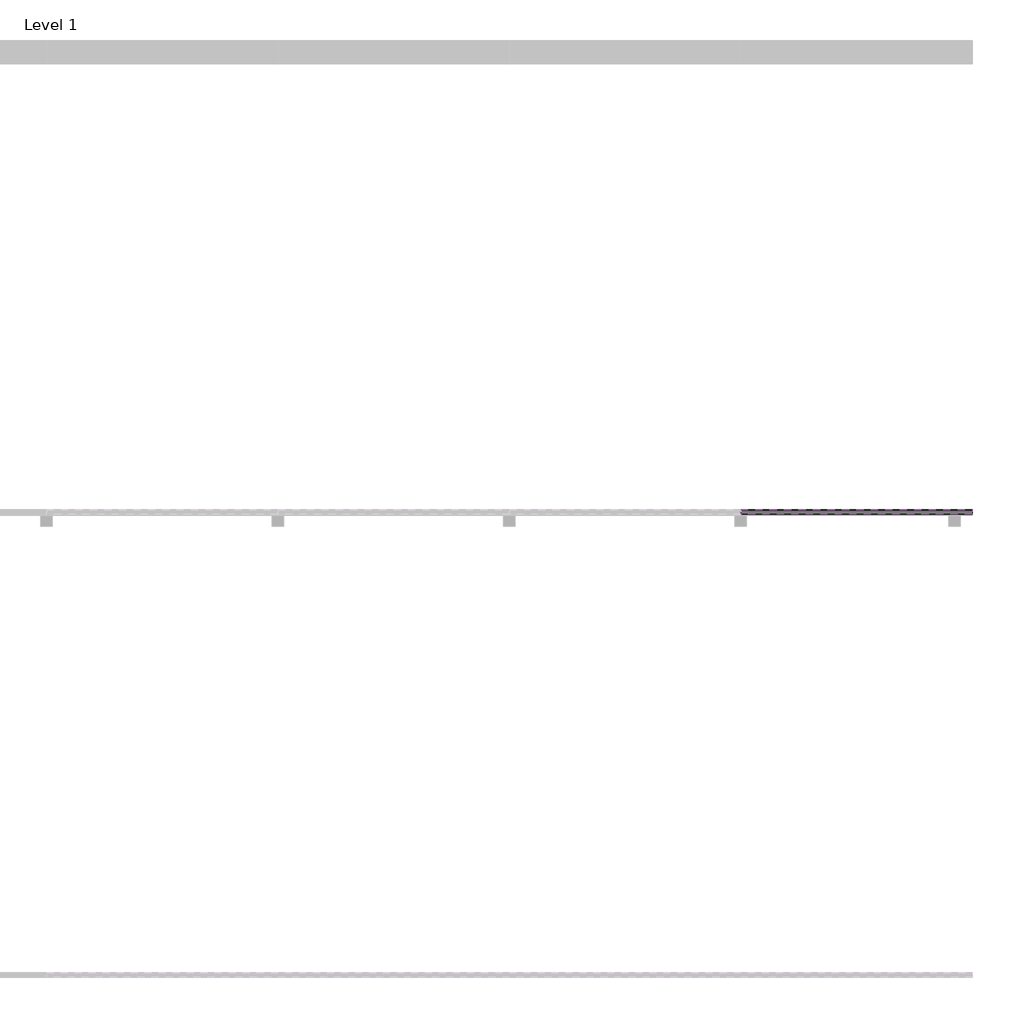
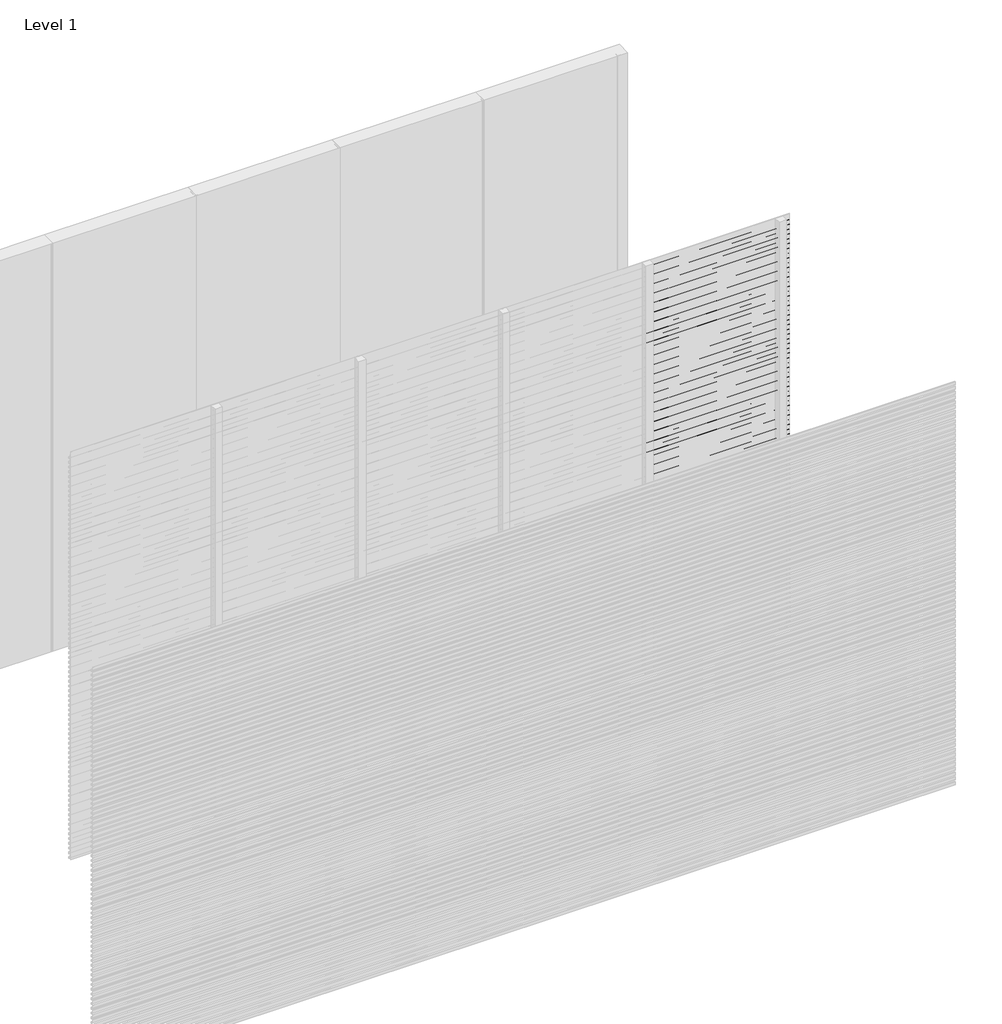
# One storey, part 13 of 25: 98 proxies.
"""IFC4 building model written with IfcOpenShell, lengths in millimetres."""

from ifc_helpers import new_model, si_unit, frame, origin, place, context, project, spatial, polyline, outline, extrude, element, save

model = new_model("IFC4")

# Units and contexts
model_context = context("Model", 3, world=origin())
ifc_project = project(units=[si_unit("LENGTHUNIT", "METRE", prefix="MILLI")], contexts=[model_context])

# Site, building, storey
site = spatial("IfcSite", under=ifc_project)
building = spatial("IfcBuilding", under=site)
storey = spatial("IfcBuildingStorey", under=building, Name="Level 1", Elevation=0.0)

# Proxies
placement = place(None, origin())
element("IfcBuildingElementProxy", 1, Name="Wall Sweeps", at=placement, inside=storey, context=model_context, shape_type="SweptSolid", body=[
    extrude(outline(polyline([(-11995.0, 665.0), (-11995.0, 653.942893), (-11976.0, 638.0), (-11976.0, 625.0), (-11997.0, 642.6210923), (-11997.0, 665.0), (-11995.0, 665.0)])), frame((4000.0, 0.0, 0.0), z_axis=(1.0, 0.0, 0.0), x_axis=(0.0, 1.0, 0.0)), (0.0, 0.0, 1.0), 1000.0),
])
element("IfcBuildingElementProxy", 2, Name="Wall Sweeps", at=placement, inside=storey, context=model_context, shape_type="SweptSolid", body=[
    extrude(outline(polyline([(-11995.0, 630.0), (-11995.0, 618.942893), (-11976.0, 603.0), (-11976.0, 590.0), (-11997.0, 607.6210923), (-11997.0, 630.0), (-11995.0, 630.0)])), frame((4000.0, 0.0, 0.0), z_axis=(1.0, 0.0, 0.0), x_axis=(0.0, 1.0, 0.0)), (0.0, 0.0, 1.0), 1000.0),
])
element("IfcBuildingElementProxy", 3, Name="Wall Sweeps", at=placement, inside=storey, context=model_context, shape_type="SweptSolid", body=[
    extrude(outline(polyline([(-11995.0, 595.0), (-11995.0, 583.942893), (-11976.0, 568.0), (-11976.0, 555.0), (-11997.0, 572.6210923), (-11997.0, 595.0), (-11995.0, 595.0)])), frame((4000.0, 0.0, 0.0), z_axis=(1.0, 0.0, 0.0), x_axis=(0.0, 1.0, 0.0)), (0.0, 0.0, 1.0), 1000.0),
])
element("IfcBuildingElementProxy", 4, Name="Wall Sweeps", at=placement, inside=storey, context=model_context, shape_type="SweptSolid", body=[
    extrude(outline(polyline([(-11995.0, 560.0), (-11995.0, 548.942893), (-11976.0, 533.0), (-11976.0, 520.0), (-11997.0, 537.6210923), (-11997.0, 560.0), (-11995.0, 560.0)])), frame((4000.0, 0.0, 0.0), z_axis=(1.0, 0.0, 0.0), x_axis=(0.0, 1.0, 0.0)), (0.0, 0.0, 1.0), 1000.0),
])
element("IfcBuildingElementProxy", 5, Name="Wall Sweeps", at=placement, inside=storey, context=model_context, shape_type="SweptSolid", body=[
    extrude(outline(polyline([(-11995.0, 525.0), (-11995.0, 513.942893), (-11976.0, 498.0), (-11976.0, 485.0), (-11997.0, 502.6210923), (-11997.0, 525.0), (-11995.0, 525.0)])), frame((4000.0, 0.0, 0.0), z_axis=(1.0, 0.0, 0.0), x_axis=(0.0, 1.0, 0.0)), (0.0, 0.0, 1.0), 1000.0),
])
element("IfcBuildingElementProxy", 6, Name="Wall Sweeps", at=placement, inside=storey, context=model_context, shape_type="SweptSolid", body=[
    extrude(outline(polyline([(-11995.0, 490.0), (-11995.0, 478.942893), (-11976.0, 463.0), (-11976.0, 450.0), (-11997.0, 467.6210923), (-11997.0, 490.0), (-11995.0, 490.0)])), frame((4000.0, 0.0, 0.0), z_axis=(1.0, 0.0, 0.0), x_axis=(0.0, 1.0, 0.0)), (0.0, 0.0, 1.0), 1000.0),
])
element("IfcBuildingElementProxy", 7, Name="Wall Sweeps", at=placement, inside=storey, context=model_context, shape_type="SweptSolid", body=[
    extrude(outline(polyline([(-11995.0, 455.0), (-11995.0, 443.942893), (-11976.0, 428.0), (-11976.0, 415.0), (-11997.0, 432.6210923), (-11997.0, 455.0), (-11995.0, 455.0)])), frame((4000.0, 0.0, 0.0), z_axis=(1.0, 0.0, 0.0), x_axis=(0.0, 1.0, 0.0)), (0.0, 0.0, 1.0), 1000.0),
])
element("IfcBuildingElementProxy", 8, Name="Wall Sweeps", at=placement, inside=storey, context=model_context, shape_type="SweptSolid", body=[
    extrude(outline(polyline([(-11995.0, 420.0), (-11995.0, 408.942893), (-11976.0, 393.0), (-11976.0, 380.0), (-11997.0, 397.6210923), (-11997.0, 420.0), (-11995.0, 420.0)])), frame((4000.0, 0.0, 0.0), z_axis=(1.0, 0.0, 0.0), x_axis=(0.0, 1.0, 0.0)), (0.0, 0.0, 1.0), 1000.0),
])
element("IfcBuildingElementProxy", 9, Name="Wall Sweeps", at=placement, inside=storey, context=model_context, shape_type="SweptSolid", body=[
    extrude(outline(polyline([(-11995.0, 385.0), (-11995.0, 373.942893), (-11976.0, 358.0), (-11976.0, 345.0), (-11997.0, 362.6210923), (-11997.0, 385.0), (-11995.0, 385.0)])), frame((4000.0, 0.0, 0.0), z_axis=(1.0, 0.0, 0.0), x_axis=(0.0, 1.0, 0.0)), (0.0, 0.0, 1.0), 1000.0),
])
element("IfcBuildingElementProxy", 10, Name="Wall Sweeps", at=placement, inside=storey, context=model_context, shape_type="SweptSolid", body=[
    extrude(outline(polyline([(-11995.0, 350.0), (-11995.0, 338.942893), (-11976.0, 323.0), (-11976.0, 310.0), (-11997.0, 327.6210923), (-11997.0, 350.0), (-11995.0, 350.0)])), frame((4000.0, 0.0, 0.0), z_axis=(1.0, 0.0, 0.0), x_axis=(0.0, 1.0, 0.0)), (0.0, 0.0, 1.0), 1000.0),
])
element("IfcBuildingElementProxy", 11, Name="Wall Sweeps", at=placement, inside=storey, context=model_context, shape_type="SweptSolid", body=[
    extrude(outline(polyline([(-11995.0, 315.0), (-11995.0, 303.942893), (-11976.0, 288.0), (-11976.0, 275.0), (-11997.0, 292.6210923), (-11997.0, 315.0), (-11995.0, 315.0)])), frame((4000.0, 0.0, 0.0), z_axis=(1.0, 0.0, 0.0), x_axis=(0.0, 1.0, 0.0)), (0.0, 0.0, 1.0), 1000.0),
])
element("IfcBuildingElementProxy", 12, Name="Wall Sweeps", at=placement, inside=storey, context=model_context, shape_type="SweptSolid", body=[
    extrude(outline(polyline([(-11995.0, 280.0), (-11995.0, 268.942893), (-11976.0, 253.0), (-11976.0, 240.0), (-11997.0, 257.6210923), (-11997.0, 280.0), (-11995.0, 280.0)])), frame((4000.0, 0.0, 0.0), z_axis=(1.0, 0.0, 0.0), x_axis=(0.0, 1.0, 0.0)), (0.0, 0.0, 1.0), 1000.0),
])
element("IfcBuildingElementProxy", 13, Name="Wall Sweeps", at=placement, inside=storey, context=model_context, shape_type="SweptSolid", body=[
    extrude(outline(polyline([(-11995.0, 245.0), (-11995.0, 233.942893), (-11976.0, 218.0), (-11976.0, 205.0), (-11997.0, 222.6210923), (-11997.0, 245.0), (-11995.0, 245.0)])), frame((4000.0, 0.0, 0.0), z_axis=(1.0, 0.0, 0.0), x_axis=(0.0, 1.0, 0.0)), (0.0, 0.0, 1.0), 1000.0),
])
element("IfcBuildingElementProxy", 14, Name="Wall Sweeps", at=placement, inside=storey, context=model_context, shape_type="SweptSolid", body=[
    extrude(outline(polyline([(-11995.0, 210.0), (-11995.0, 198.942893), (-11976.0, 183.0), (-11976.0, 170.0), (-11997.0, 187.6210923), (-11997.0, 210.0), (-11995.0, 210.0)])), frame((4000.0, 0.0, 0.0), z_axis=(1.0, 0.0, 0.0), x_axis=(0.0, 1.0, 0.0)), (0.0, 0.0, 1.0), 1000.0),
])
element("IfcBuildingElementProxy", 15, Name="Wall Sweeps", at=placement, inside=storey, context=model_context, shape_type="SweptSolid", body=[
    extrude(outline(polyline([(-11995.0, 175.0), (-11995.0, 163.942893), (-11976.0, 148.0), (-11976.0, 135.0), (-11997.0, 152.6210923), (-11997.0, 175.0), (-11995.0, 175.0)])), frame((4000.0, 0.0, 0.0), z_axis=(1.0, 0.0, 0.0), x_axis=(0.0, 1.0, 0.0)), (0.0, 0.0, 1.0), 1000.0),
])
element("IfcBuildingElementProxy", 16, Name="Wall Sweeps", at=placement, inside=storey, context=model_context, shape_type="SweptSolid", body=[
    extrude(outline(polyline([(-11995.0, 140.0), (-11995.0, 128.942893), (-11976.0, 113.0), (-11976.0, 100.0), (-11997.0, 117.6210923), (-11997.0, 140.0), (-11995.0, 140.0)])), frame((4000.0, 0.0, 0.0), z_axis=(1.0, 0.0, 0.0), x_axis=(0.0, 1.0, 0.0)), (0.0, 0.0, 1.0), 1000.0),
])
element("IfcBuildingElementProxy", 17, Name="Wall Sweeps", at=placement, inside=storey, context=model_context, shape_type="SweptSolid", body=[
    extrude(outline(polyline([(-11995.0, 105.0), (-11995.0, 93.942893), (-11976.0, 78.0), (-11976.0, 65.0), (-11997.0, 82.6210923), (-11997.0, 105.0), (-11995.0, 105.0)])), frame((4000.0, 0.0, 0.0), z_axis=(1.0, 0.0, 0.0), x_axis=(0.0, 1.0, 0.0)), (0.0, 0.0, 1.0), 1000.0),
])
element("IfcBuildingElementProxy", 18, Name="Wall Sweeps", at=placement, inside=storey, context=model_context, shape_type="SweptSolid", body=[
    extrude(outline(polyline([(-11995.0, 70.0), (-11995.0, 58.942893), (-11976.0, 43.0), (-11976.0, 30.0), (-11997.0, 47.6210923), (-11997.0, 70.0), (-11995.0, 70.0)])), frame((4000.0, 0.0, 0.0), z_axis=(1.0, 0.0, 0.0), x_axis=(0.0, 1.0, 0.0)), (0.0, 0.0, 1.0), 1000.0),
])
element("IfcBuildingElementProxy", 19, Name="Wall Sweeps", at=placement, inside=storey, context=model_context, shape_type="SweptSolid", body=[
    extrude(outline(polyline([(-11995.0, 35.0), (-11995.0, 23.942893), (-11976.0, 8.0), (-11976.0, -5.0), (-11997.0, 12.6210923), (-11997.0, 35.0), (-11995.0, 35.0)])), frame((4000.0, 0.0, 0.0), z_axis=(1.0, 0.0, 0.0), x_axis=(0.0, 1.0, 0.0)), (0.0, 0.0, 1.0), 1000.0),
])
element("IfcBuildingElementProxy", 20, Name="Wall Sweeps", at=placement, inside=storey, context=model_context, shape_type="SweptSolid", body=[
    extrude(outline(polyline([(-11995.0, 2975.0), (-11995.0, 2963.942893), (-11976.0, 2948.0), (-11976.0, 2935.0), (-11997.0, 2952.6210923), (-11997.0, 2975.0), (-11995.0, 2975.0)])), frame((5000.0, 0.0, 0.0), z_axis=(1.0, 0.0, 0.0), x_axis=(0.0, 1.0, 0.0)), (0.0, 0.0, 1.0), 1000.0),
])
element("IfcBuildingElementProxy", 21, Name="Wall Sweeps", at=placement, inside=storey, context=model_context, shape_type="SweptSolid", body=[
    extrude(outline(polyline([(-11995.0, 2940.0), (-11995.0, 2928.942893), (-11976.0, 2913.0), (-11976.0, 2900.0), (-11997.0, 2917.6210923), (-11997.0, 2940.0), (-11995.0, 2940.0)])), frame((5000.0, 0.0, 0.0), z_axis=(1.0, 0.0, 0.0), x_axis=(0.0, 1.0, 0.0)), (0.0, 0.0, 1.0), 1000.0),
])
element("IfcBuildingElementProxy", 22, Name="Wall Sweeps", at=placement, inside=storey, context=model_context, shape_type="SweptSolid", body=[
    extrude(outline(polyline([(-11995.0, 2905.0), (-11995.0, 2893.942893), (-11976.0, 2878.0), (-11976.0, 2865.0), (-11997.0, 2882.6210923), (-11997.0, 2905.0), (-11995.0, 2905.0)])), frame((5000.0, 0.0, 0.0), z_axis=(1.0, 0.0, 0.0), x_axis=(0.0, 1.0, 0.0)), (0.0, 0.0, 1.0), 1000.0),
])
element("IfcBuildingElementProxy", 23, Name="Wall Sweeps", at=placement, inside=storey, context=model_context, shape_type="SweptSolid", body=[
    extrude(outline(polyline([(-11995.0, 2870.0), (-11995.0, 2858.942893), (-11976.0, 2843.0), (-11976.0, 2830.0), (-11997.0, 2847.6210923), (-11997.0, 2870.0), (-11995.0, 2870.0)])), frame((5000.0, 0.0, 0.0), z_axis=(1.0, 0.0, 0.0), x_axis=(0.0, 1.0, 0.0)), (0.0, 0.0, 1.0), 1000.0),
])
element("IfcBuildingElementProxy", 24, Name="Wall Sweeps", at=placement, inside=storey, context=model_context, shape_type="SweptSolid", body=[
    extrude(outline(polyline([(-11995.0, 2835.0), (-11995.0, 2823.942893), (-11976.0, 2808.0), (-11976.0, 2795.0), (-11997.0, 2812.6210923), (-11997.0, 2835.0), (-11995.0, 2835.0)])), frame((5000.0, 0.0, 0.0), z_axis=(1.0, 0.0, 0.0), x_axis=(0.0, 1.0, 0.0)), (0.0, 0.0, 1.0), 1000.0),
])
element("IfcBuildingElementProxy", 25, Name="Wall Sweeps", at=placement, inside=storey, context=model_context, shape_type="SweptSolid", body=[
    extrude(outline(polyline([(-11995.0, 2800.0), (-11995.0, 2788.942893), (-11976.0, 2773.0), (-11976.0, 2760.0), (-11997.0, 2777.6210923), (-11997.0, 2800.0), (-11995.0, 2800.0)])), frame((5000.0, 0.0, 0.0), z_axis=(1.0, 0.0, 0.0), x_axis=(0.0, 1.0, 0.0)), (0.0, 0.0, 1.0), 1000.0),
])
element("IfcBuildingElementProxy", 26, Name="Wall Sweeps", at=placement, inside=storey, context=model_context, shape_type="SweptSolid", body=[
    extrude(outline(polyline([(-11995.0, 2765.0), (-11995.0, 2753.942893), (-11976.0, 2738.0), (-11976.0, 2725.0), (-11997.0, 2742.6210923), (-11997.0, 2765.0), (-11995.0, 2765.0)])), frame((5000.0, 0.0, 0.0), z_axis=(1.0, 0.0, 0.0), x_axis=(0.0, 1.0, 0.0)), (0.0, 0.0, 1.0), 1000.0),
])
element("IfcBuildingElementProxy", 27, Name="Wall Sweeps", at=placement, inside=storey, context=model_context, shape_type="SweptSolid", body=[
    extrude(outline(polyline([(-11995.0, 2730.0), (-11995.0, 2718.942893), (-11976.0, 2703.0), (-11976.0, 2690.0), (-11997.0, 2707.6210923), (-11997.0, 2730.0), (-11995.0, 2730.0)])), frame((5000.0, 0.0, 0.0), z_axis=(1.0, 0.0, 0.0), x_axis=(0.0, 1.0, 0.0)), (0.0, 0.0, 1.0), 1000.0),
])
element("IfcBuildingElementProxy", 28, Name="Wall Sweeps", at=placement, inside=storey, context=model_context, shape_type="SweptSolid", body=[
    extrude(outline(polyline([(-11995.0, 2695.0), (-11995.0, 2683.942893), (-11976.0, 2668.0), (-11976.0, 2655.0), (-11997.0, 2672.6210923), (-11997.0, 2695.0), (-11995.0, 2695.0)])), frame((5000.0, 0.0, 0.0), z_axis=(1.0, 0.0, 0.0), x_axis=(0.0, 1.0, 0.0)), (0.0, 0.0, 1.0), 1000.0),
])
element("IfcBuildingElementProxy", 29, Name="Wall Sweeps", at=placement, inside=storey, context=model_context, shape_type="SweptSolid", body=[
    extrude(outline(polyline([(-11995.0, 2660.0), (-11995.0, 2648.942893), (-11976.0, 2633.0), (-11976.0, 2620.0), (-11997.0, 2637.6210923), (-11997.0, 2660.0), (-11995.0, 2660.0)])), frame((5000.0, 0.0, 0.0), z_axis=(1.0, 0.0, 0.0), x_axis=(0.0, 1.0, 0.0)), (0.0, 0.0, 1.0), 1000.0),
])
element("IfcBuildingElementProxy", 30, Name="Wall Sweeps", at=placement, inside=storey, context=model_context, shape_type="SweptSolid", body=[
    extrude(outline(polyline([(-11995.0, 2625.0), (-11995.0, 2613.942893), (-11976.0, 2598.0), (-11976.0, 2585.0), (-11997.0, 2602.6210923), (-11997.0, 2625.0), (-11995.0, 2625.0)])), frame((5000.0, 0.0, 0.0), z_axis=(1.0, 0.0, 0.0), x_axis=(0.0, 1.0, 0.0)), (0.0, 0.0, 1.0), 1000.0),
])
element("IfcBuildingElementProxy", 31, Name="Wall Sweeps", at=placement, inside=storey, context=model_context, shape_type="SweptSolid", body=[
    extrude(outline(polyline([(-11995.0, 2590.0), (-11995.0, 2578.942893), (-11976.0, 2563.0), (-11976.0, 2550.0), (-11997.0, 2567.6210923), (-11997.0, 2590.0), (-11995.0, 2590.0)])), frame((5000.0, 0.0, 0.0), z_axis=(1.0, 0.0, 0.0), x_axis=(0.0, 1.0, 0.0)), (0.0, 0.0, 1.0), 1000.0),
])
element("IfcBuildingElementProxy", 32, Name="Wall Sweeps", at=placement, inside=storey, context=model_context, shape_type="SweptSolid", body=[
    extrude(outline(polyline([(-11995.0, 2555.0), (-11995.0, 2543.942893), (-11976.0, 2528.0), (-11976.0, 2515.0), (-11997.0, 2532.6210923), (-11997.0, 2555.0), (-11995.0, 2555.0)])), frame((5000.0, 0.0, 0.0), z_axis=(1.0, 0.0, 0.0), x_axis=(0.0, 1.0, 0.0)), (0.0, 0.0, 1.0), 1000.0),
])
element("IfcBuildingElementProxy", 33, Name="Wall Sweeps", at=placement, inside=storey, context=model_context, shape_type="SweptSolid", body=[
    extrude(outline(polyline([(-11995.0, 2520.0), (-11995.0, 2508.942893), (-11976.0, 2493.0), (-11976.0, 2480.0), (-11997.0, 2497.6210923), (-11997.0, 2520.0), (-11995.0, 2520.0)])), frame((5000.0, 0.0, 0.0), z_axis=(1.0, 0.0, 0.0), x_axis=(0.0, 1.0, 0.0)), (0.0, 0.0, 1.0), 1000.0),
])
element("IfcBuildingElementProxy", 34, Name="Wall Sweeps", at=placement, inside=storey, context=model_context, shape_type="SweptSolid", body=[
    extrude(outline(polyline([(-11995.0, 2485.0), (-11995.0, 2473.942893), (-11976.0, 2458.0), (-11976.0, 2445.0), (-11997.0, 2462.6210923), (-11997.0, 2485.0), (-11995.0, 2485.0)])), frame((5000.0, 0.0, 0.0), z_axis=(1.0, 0.0, 0.0), x_axis=(0.0, 1.0, 0.0)), (0.0, 0.0, 1.0), 1000.0),
])
element("IfcBuildingElementProxy", 35, Name="Wall Sweeps", at=placement, inside=storey, context=model_context, shape_type="SweptSolid", body=[
    extrude(outline(polyline([(-11995.0, 2450.0), (-11995.0, 2438.942893), (-11976.0, 2423.0), (-11976.0, 2410.0), (-11997.0, 2427.6210923), (-11997.0, 2450.0), (-11995.0, 2450.0)])), frame((5000.0, 0.0, 0.0), z_axis=(1.0, 0.0, 0.0), x_axis=(0.0, 1.0, 0.0)), (0.0, 0.0, 1.0), 1000.0),
])
element("IfcBuildingElementProxy", 36, Name="Wall Sweeps", at=placement, inside=storey, context=model_context, shape_type="SweptSolid", body=[
    extrude(outline(polyline([(-11995.0, 2415.0), (-11995.0, 2403.942893), (-11976.0, 2388.0), (-11976.0, 2375.0), (-11997.0, 2392.6210923), (-11997.0, 2415.0), (-11995.0, 2415.0)])), frame((5000.0, 0.0, 0.0), z_axis=(1.0, 0.0, 0.0), x_axis=(0.0, 1.0, 0.0)), (0.0, 0.0, 1.0), 1000.0),
])
element("IfcBuildingElementProxy", 37, Name="Wall Sweeps", at=placement, inside=storey, context=model_context, shape_type="SweptSolid", body=[
    extrude(outline(polyline([(-11995.0, 2380.0), (-11995.0, 2368.942893), (-11976.0, 2353.0), (-11976.0, 2340.0), (-11997.0, 2357.6210923), (-11997.0, 2380.0), (-11995.0, 2380.0)])), frame((5000.0, 0.0, 0.0), z_axis=(1.0, 0.0, 0.0), x_axis=(0.0, 1.0, 0.0)), (0.0, 0.0, 1.0), 1000.0),
])
element("IfcBuildingElementProxy", 38, Name="Wall Sweeps", at=placement, inside=storey, context=model_context, shape_type="SweptSolid", body=[
    extrude(outline(polyline([(-11995.0, 2345.0), (-11995.0, 2333.942893), (-11976.0, 2318.0), (-11976.0, 2305.0), (-11997.0, 2322.6210923), (-11997.0, 2345.0), (-11995.0, 2345.0)])), frame((5000.0, 0.0, 0.0), z_axis=(1.0, 0.0, 0.0), x_axis=(0.0, 1.0, 0.0)), (0.0, 0.0, 1.0), 1000.0),
])
element("IfcBuildingElementProxy", 39, Name="Wall Sweeps", at=placement, inside=storey, context=model_context, shape_type="SweptSolid", body=[
    extrude(outline(polyline([(-11995.0, 2310.0), (-11995.0, 2298.942893), (-11976.0, 2283.0), (-11976.0, 2270.0), (-11997.0, 2287.6210923), (-11997.0, 2310.0), (-11995.0, 2310.0)])), frame((5000.0, 0.0, 0.0), z_axis=(1.0, 0.0, 0.0), x_axis=(0.0, 1.0, 0.0)), (0.0, 0.0, 1.0), 1000.0),
])
element("IfcBuildingElementProxy", 40, Name="Wall Sweeps", at=placement, inside=storey, context=model_context, shape_type="SweptSolid", body=[
    extrude(outline(polyline([(-11995.0, 2275.0), (-11995.0, 2263.942893), (-11976.0, 2248.0), (-11976.0, 2235.0), (-11997.0, 2252.6210923), (-11997.0, 2275.0), (-11995.0, 2275.0)])), frame((5000.0, 0.0, 0.0), z_axis=(1.0, 0.0, 0.0), x_axis=(0.0, 1.0, 0.0)), (0.0, 0.0, 1.0), 1000.0),
])
element("IfcBuildingElementProxy", 41, Name="Wall Sweeps", at=placement, inside=storey, context=model_context, shape_type="SweptSolid", body=[
    extrude(outline(polyline([(-11995.0, 2240.0), (-11995.0, 2228.942893), (-11976.0, 2213.0), (-11976.0, 2200.0), (-11997.0, 2217.6210923), (-11997.0, 2240.0), (-11995.0, 2240.0)])), frame((5000.0, 0.0, 0.0), z_axis=(1.0, 0.0, 0.0), x_axis=(0.0, 1.0, 0.0)), (0.0, 0.0, 1.0), 1000.0),
])
element("IfcBuildingElementProxy", 42, Name="Wall Sweeps", at=placement, inside=storey, context=model_context, shape_type="SweptSolid", body=[
    extrude(outline(polyline([(-11995.0, 2205.0), (-11995.0, 2193.942893), (-11976.0, 2178.0), (-11976.0, 2165.0), (-11997.0, 2182.6210923), (-11997.0, 2205.0), (-11995.0, 2205.0)])), frame((5000.0, 0.0, 0.0), z_axis=(1.0, 0.0, 0.0), x_axis=(0.0, 1.0, 0.0)), (0.0, 0.0, 1.0), 1000.0),
])
element("IfcBuildingElementProxy", 43, Name="Wall Sweeps", at=placement, inside=storey, context=model_context, shape_type="SweptSolid", body=[
    extrude(outline(polyline([(-11995.0, 2170.0), (-11995.0, 2158.942893), (-11976.0, 2143.0), (-11976.0, 2130.0), (-11997.0, 2147.6210923), (-11997.0, 2170.0), (-11995.0, 2170.0)])), frame((5000.0, 0.0, 0.0), z_axis=(1.0, 0.0, 0.0), x_axis=(0.0, 1.0, 0.0)), (0.0, 0.0, 1.0), 1000.0),
])
element("IfcBuildingElementProxy", 44, Name="Wall Sweeps", at=placement, inside=storey, context=model_context, shape_type="SweptSolid", body=[
    extrude(outline(polyline([(-11995.0, 2135.0), (-11995.0, 2123.942893), (-11976.0, 2108.0), (-11976.0, 2095.0), (-11997.0, 2112.6210923), (-11997.0, 2135.0), (-11995.0, 2135.0)])), frame((5000.0, 0.0, 0.0), z_axis=(1.0, 0.0, 0.0), x_axis=(0.0, 1.0, 0.0)), (0.0, 0.0, 1.0), 1000.0),
])
element("IfcBuildingElementProxy", 45, Name="Wall Sweeps", at=placement, inside=storey, context=model_context, shape_type="SweptSolid", body=[
    extrude(outline(polyline([(-11995.0, 2100.0), (-11995.0, 2088.942893), (-11976.0, 2073.0), (-11976.0, 2060.0), (-11997.0, 2077.6210923), (-11997.0, 2100.0), (-11995.0, 2100.0)])), frame((5000.0, 0.0, 0.0), z_axis=(1.0, 0.0, 0.0), x_axis=(0.0, 1.0, 0.0)), (0.0, 0.0, 1.0), 1000.0),
])
element("IfcBuildingElementProxy", 46, Name="Wall Sweeps", at=placement, inside=storey, context=model_context, shape_type="SweptSolid", body=[
    extrude(outline(polyline([(-11995.0, 2065.0), (-11995.0, 2053.942893), (-11976.0, 2038.0), (-11976.0, 2025.0), (-11997.0, 2042.6210923), (-11997.0, 2065.0), (-11995.0, 2065.0)])), frame((5000.0, 0.0, 0.0), z_axis=(1.0, 0.0, 0.0), x_axis=(0.0, 1.0, 0.0)), (0.0, 0.0, 1.0), 1000.0),
])
element("IfcBuildingElementProxy", 47, Name="Wall Sweeps", at=placement, inside=storey, context=model_context, shape_type="SweptSolid", body=[
    extrude(outline(polyline([(-11995.0, 2030.0), (-11995.0, 2018.942893), (-11976.0, 2003.0), (-11976.0, 1990.0), (-11997.0, 2007.6210923), (-11997.0, 2030.0), (-11995.0, 2030.0)])), frame((5000.0, 0.0, 0.0), z_axis=(1.0, 0.0, 0.0), x_axis=(0.0, 1.0, 0.0)), (0.0, 0.0, 1.0), 1000.0),
])
element("IfcBuildingElementProxy", 48, Name="Wall Sweeps", at=placement, inside=storey, context=model_context, shape_type="SweptSolid", body=[
    extrude(outline(polyline([(-11995.0, 1995.0), (-11995.0, 1983.942893), (-11976.0, 1968.0), (-11976.0, 1955.0), (-11997.0, 1972.6210923), (-11997.0, 1995.0), (-11995.0, 1995.0)])), frame((5000.0, 0.0, 0.0), z_axis=(1.0, 0.0, 0.0), x_axis=(0.0, 1.0, 0.0)), (0.0, 0.0, 1.0), 1000.0),
])
element("IfcBuildingElementProxy", 49, Name="Wall Sweeps", at=placement, inside=storey, context=model_context, shape_type="SweptSolid", body=[
    extrude(outline(polyline([(-11995.0, 1960.0), (-11995.0, 1948.942893), (-11976.0, 1933.0), (-11976.0, 1920.0), (-11997.0, 1937.6210923), (-11997.0, 1960.0), (-11995.0, 1960.0)])), frame((5000.0, 0.0, 0.0), z_axis=(1.0, 0.0, 0.0), x_axis=(0.0, 1.0, 0.0)), (0.0, 0.0, 1.0), 1000.0),
])
element("IfcBuildingElementProxy", 50, Name="Wall Sweeps", at=placement, inside=storey, context=model_context, shape_type="SweptSolid", body=[
    extrude(outline(polyline([(-11995.0, 1925.0), (-11995.0, 1913.942893), (-11976.0, 1898.0), (-11976.0, 1885.0), (-11997.0, 1902.6210923), (-11997.0, 1925.0), (-11995.0, 1925.0)])), frame((5000.0, 0.0, 0.0), z_axis=(1.0, 0.0, 0.0), x_axis=(0.0, 1.0, 0.0)), (0.0, 0.0, 1.0), 1000.0),
])
element("IfcBuildingElementProxy", 51, Name="Wall Sweeps", at=placement, inside=storey, context=model_context, shape_type="SweptSolid", body=[
    extrude(outline(polyline([(-11995.0, 1890.0), (-11995.0, 1878.942893), (-11976.0, 1863.0), (-11976.0, 1850.0), (-11997.0, 1867.6210923), (-11997.0, 1890.0), (-11995.0, 1890.0)])), frame((5000.0, 0.0, 0.0), z_axis=(1.0, 0.0, 0.0), x_axis=(0.0, 1.0, 0.0)), (0.0, 0.0, 1.0), 1000.0),
])
element("IfcBuildingElementProxy", 52, Name="Wall Sweeps", at=placement, inside=storey, context=model_context, shape_type="SweptSolid", body=[
    extrude(outline(polyline([(-11995.0, 1855.0), (-11995.0, 1843.942893), (-11976.0, 1828.0), (-11976.0, 1815.0), (-11997.0, 1832.6210923), (-11997.0, 1855.0), (-11995.0, 1855.0)])), frame((5000.0, 0.0, 0.0), z_axis=(1.0, 0.0, 0.0), x_axis=(0.0, 1.0, 0.0)), (0.0, 0.0, 1.0), 1000.0),
])
element("IfcBuildingElementProxy", 53, Name="Wall Sweeps", at=placement, inside=storey, context=model_context, shape_type="SweptSolid", body=[
    extrude(outline(polyline([(-11995.0, 1820.0), (-11995.0, 1808.942893), (-11976.0, 1793.0), (-11976.0, 1780.0), (-11997.0, 1797.6210923), (-11997.0, 1820.0), (-11995.0, 1820.0)])), frame((5000.0, 0.0, 0.0), z_axis=(1.0, 0.0, 0.0), x_axis=(0.0, 1.0, 0.0)), (0.0, 0.0, 1.0), 1000.0),
])
element("IfcBuildingElementProxy", 54, Name="Wall Sweeps", at=placement, inside=storey, context=model_context, shape_type="SweptSolid", body=[
    extrude(outline(polyline([(-11995.0, 1785.0), (-11995.0, 1773.942893), (-11976.0, 1758.0), (-11976.0, 1745.0), (-11997.0, 1762.6210923), (-11997.0, 1785.0), (-11995.0, 1785.0)])), frame((5000.0, 0.0, 0.0), z_axis=(1.0, 0.0, 0.0), x_axis=(0.0, 1.0, 0.0)), (0.0, 0.0, 1.0), 1000.0),
])
element("IfcBuildingElementProxy", 55, Name="Wall Sweeps", at=placement, inside=storey, context=model_context, shape_type="SweptSolid", body=[
    extrude(outline(polyline([(-11995.0, 1750.0), (-11995.0, 1738.942893), (-11976.0, 1723.0), (-11976.0, 1710.0), (-11997.0, 1727.6210923), (-11997.0, 1750.0), (-11995.0, 1750.0)])), frame((5000.0, 0.0, 0.0), z_axis=(1.0, 0.0, 0.0), x_axis=(0.0, 1.0, 0.0)), (0.0, 0.0, 1.0), 1000.0),
])
element("IfcBuildingElementProxy", 56, Name="Wall Sweeps", at=placement, inside=storey, context=model_context, shape_type="SweptSolid", body=[
    extrude(outline(polyline([(-11995.0, 1715.0), (-11995.0, 1703.942893), (-11976.0, 1688.0), (-11976.0, 1675.0), (-11997.0, 1692.6210923), (-11997.0, 1715.0), (-11995.0, 1715.0)])), frame((5000.0, 0.0, 0.0), z_axis=(1.0, 0.0, 0.0), x_axis=(0.0, 1.0, 0.0)), (0.0, 0.0, 1.0), 1000.0),
])
element("IfcBuildingElementProxy", 57, Name="Wall Sweeps", at=placement, inside=storey, context=model_context, shape_type="SweptSolid", body=[
    extrude(outline(polyline([(-11995.0, 1680.0), (-11995.0, 1668.942893), (-11976.0, 1653.0), (-11976.0, 1640.0), (-11997.0, 1657.6210923), (-11997.0, 1680.0), (-11995.0, 1680.0)])), frame((5000.0, 0.0, 0.0), z_axis=(1.0, 0.0, 0.0), x_axis=(0.0, 1.0, 0.0)), (0.0, 0.0, 1.0), 1000.0),
])
element("IfcBuildingElementProxy", 58, Name="Wall Sweeps", at=placement, inside=storey, context=model_context, shape_type="SweptSolid", body=[
    extrude(outline(polyline([(-11995.0, 1645.0), (-11995.0, 1633.942893), (-11976.0, 1618.0), (-11976.0, 1605.0), (-11997.0, 1622.6210923), (-11997.0, 1645.0), (-11995.0, 1645.0)])), frame((5000.0, 0.0, 0.0), z_axis=(1.0, 0.0, 0.0), x_axis=(0.0, 1.0, 0.0)), (0.0, 0.0, 1.0), 1000.0),
])
element("IfcBuildingElementProxy", 59, Name="Wall Sweeps", at=placement, inside=storey, context=model_context, shape_type="SweptSolid", body=[
    extrude(outline(polyline([(-11995.0, 1610.0), (-11995.0, 1598.942893), (-11976.0, 1583.0), (-11976.0, 1570.0), (-11997.0, 1587.6210923), (-11997.0, 1610.0), (-11995.0, 1610.0)])), frame((5000.0, 0.0, 0.0), z_axis=(1.0, 0.0, 0.0), x_axis=(0.0, 1.0, 0.0)), (0.0, 0.0, 1.0), 1000.0),
])
element("IfcBuildingElementProxy", 60, Name="Wall Sweeps", at=placement, inside=storey, context=model_context, shape_type="SweptSolid", body=[
    extrude(outline(polyline([(-11995.0, 1575.0), (-11995.0, 1563.942893), (-11976.0, 1548.0), (-11976.0, 1535.0), (-11997.0, 1552.6210923), (-11997.0, 1575.0), (-11995.0, 1575.0)])), frame((5000.0, 0.0, 0.0), z_axis=(1.0, 0.0, 0.0), x_axis=(0.0, 1.0, 0.0)), (0.0, 0.0, 1.0), 1000.0),
])
element("IfcBuildingElementProxy", 61, Name="Wall Sweeps", at=placement, inside=storey, context=model_context, shape_type="SweptSolid", body=[
    extrude(outline(polyline([(-11995.0, 1540.0), (-11995.0, 1528.942893), (-11976.0, 1513.0), (-11976.0, 1500.0), (-11997.0, 1517.6210923), (-11997.0, 1540.0), (-11995.0, 1540.0)])), frame((5000.0, 0.0, 0.0), z_axis=(1.0, 0.0, 0.0), x_axis=(0.0, 1.0, 0.0)), (0.0, 0.0, 1.0), 1000.0),
])
element("IfcBuildingElementProxy", 62, Name="Wall Sweeps", at=placement, inside=storey, context=model_context, shape_type="SweptSolid", body=[
    extrude(outline(polyline([(-11995.0, 1505.0), (-11995.0, 1493.942893), (-11976.0, 1478.0), (-11976.0, 1465.0), (-11997.0, 1482.6210923), (-11997.0, 1505.0), (-11995.0, 1505.0)])), frame((5000.0, 0.0, 0.0), z_axis=(1.0, 0.0, 0.0), x_axis=(0.0, 1.0, 0.0)), (0.0, 0.0, 1.0), 1000.0),
])
element("IfcBuildingElementProxy", 63, Name="Wall Sweeps", at=placement, inside=storey, context=model_context, shape_type="SweptSolid", body=[
    extrude(outline(polyline([(-11995.0, 1470.0), (-11995.0, 1458.942893), (-11976.0, 1443.0), (-11976.0, 1430.0), (-11997.0, 1447.6210923), (-11997.0, 1470.0), (-11995.0, 1470.0)])), frame((5000.0, 0.0, 0.0), z_axis=(1.0, 0.0, 0.0), x_axis=(0.0, 1.0, 0.0)), (0.0, 0.0, 1.0), 1000.0),
])
element("IfcBuildingElementProxy", 64, Name="Wall Sweeps", at=placement, inside=storey, context=model_context, shape_type="SweptSolid", body=[
    extrude(outline(polyline([(-11995.0, 1435.0), (-11995.0, 1423.942893), (-11976.0, 1408.0), (-11976.0, 1395.0), (-11997.0, 1412.6210923), (-11997.0, 1435.0), (-11995.0, 1435.0)])), frame((5000.0, 0.0, 0.0), z_axis=(1.0, 0.0, 0.0), x_axis=(0.0, 1.0, 0.0)), (0.0, 0.0, 1.0), 1000.0),
])
element("IfcBuildingElementProxy", 65, Name="Wall Sweeps", at=placement, inside=storey, context=model_context, shape_type="SweptSolid", body=[
    extrude(outline(polyline([(-11995.0, 1400.0), (-11995.0, 1388.942893), (-11976.0, 1373.0), (-11976.0, 1360.0), (-11997.0, 1377.6210923), (-11997.0, 1400.0), (-11995.0, 1400.0)])), frame((5000.0, 0.0, 0.0), z_axis=(1.0, 0.0, 0.0), x_axis=(0.0, 1.0, 0.0)), (0.0, 0.0, 1.0), 1000.0),
])
element("IfcBuildingElementProxy", 66, Name="Wall Sweeps", at=placement, inside=storey, context=model_context, shape_type="SweptSolid", body=[
    extrude(outline(polyline([(-11995.0, 1365.0), (-11995.0, 1353.942893), (-11976.0, 1338.0), (-11976.0, 1325.0), (-11997.0, 1342.6210923), (-11997.0, 1365.0), (-11995.0, 1365.0)])), frame((5000.0, 0.0, 0.0), z_axis=(1.0, 0.0, 0.0), x_axis=(0.0, 1.0, 0.0)), (0.0, 0.0, 1.0), 1000.0),
])
element("IfcBuildingElementProxy", 67, Name="Wall Sweeps", at=placement, inside=storey, context=model_context, shape_type="SweptSolid", body=[
    extrude(outline(polyline([(-11995.0, 1330.0), (-11995.0, 1318.942893), (-11976.0, 1303.0), (-11976.0, 1290.0), (-11997.0, 1307.6210923), (-11997.0, 1330.0), (-11995.0, 1330.0)])), frame((5000.0, 0.0, 0.0), z_axis=(1.0, 0.0, 0.0), x_axis=(0.0, 1.0, 0.0)), (0.0, 0.0, 1.0), 1000.0),
])
element("IfcBuildingElementProxy", 68, Name="Wall Sweeps", at=placement, inside=storey, context=model_context, shape_type="SweptSolid", body=[
    extrude(outline(polyline([(-11995.0, 1295.0), (-11995.0, 1283.942893), (-11976.0, 1268.0), (-11976.0, 1255.0), (-11997.0, 1272.6210923), (-11997.0, 1295.0), (-11995.0, 1295.0)])), frame((5000.0, 0.0, 0.0), z_axis=(1.0, 0.0, 0.0), x_axis=(0.0, 1.0, 0.0)), (0.0, 0.0, 1.0), 1000.0),
])
element("IfcBuildingElementProxy", 69, Name="Wall Sweeps", at=placement, inside=storey, context=model_context, shape_type="SweptSolid", body=[
    extrude(outline(polyline([(-11995.0, 1260.0), (-11995.0, 1248.942893), (-11976.0, 1233.0), (-11976.0, 1220.0), (-11997.0, 1237.6210923), (-11997.0, 1260.0), (-11995.0, 1260.0)])), frame((5000.0, 0.0, 0.0), z_axis=(1.0, 0.0, 0.0), x_axis=(0.0, 1.0, 0.0)), (0.0, 0.0, 1.0), 1000.0),
])
element("IfcBuildingElementProxy", 70, Name="Wall Sweeps", at=placement, inside=storey, context=model_context, shape_type="SweptSolid", body=[
    extrude(outline(polyline([(-11995.0, 1225.0), (-11995.0, 1213.942893), (-11976.0, 1198.0), (-11976.0, 1185.0), (-11997.0, 1202.6210923), (-11997.0, 1225.0), (-11995.0, 1225.0)])), frame((5000.0, 0.0, 0.0), z_axis=(1.0, 0.0, 0.0), x_axis=(0.0, 1.0, 0.0)), (0.0, 0.0, 1.0), 1000.0),
])
element("IfcBuildingElementProxy", 71, Name="Wall Sweeps", at=placement, inside=storey, context=model_context, shape_type="SweptSolid", body=[
    extrude(outline(polyline([(-11995.0, 1190.0), (-11995.0, 1178.942893), (-11976.0, 1163.0), (-11976.0, 1150.0), (-11997.0, 1167.6210923), (-11997.0, 1190.0), (-11995.0, 1190.0)])), frame((5000.0, 0.0, 0.0), z_axis=(1.0, 0.0, 0.0), x_axis=(0.0, 1.0, 0.0)), (0.0, 0.0, 1.0), 1000.0),
])
element("IfcBuildingElementProxy", 72, Name="Wall Sweeps", at=placement, inside=storey, context=model_context, shape_type="SweptSolid", body=[
    extrude(outline(polyline([(-11995.0, 1155.0), (-11995.0, 1143.942893), (-11976.0, 1128.0), (-11976.0, 1115.0), (-11997.0, 1132.6210923), (-11997.0, 1155.0), (-11995.0, 1155.0)])), frame((5000.0, 0.0, 0.0), z_axis=(1.0, 0.0, 0.0), x_axis=(0.0, 1.0, 0.0)), (0.0, 0.0, 1.0), 1000.0),
])
element("IfcBuildingElementProxy", 73, Name="Wall Sweeps", at=placement, inside=storey, context=model_context, shape_type="SweptSolid", body=[
    extrude(outline(polyline([(-11995.0, 1120.0), (-11995.0, 1108.942893), (-11976.0, 1093.0), (-11976.0, 1080.0), (-11997.0, 1097.6210923), (-11997.0, 1120.0), (-11995.0, 1120.0)])), frame((5000.0, 0.0, 0.0), z_axis=(1.0, 0.0, 0.0), x_axis=(0.0, 1.0, 0.0)), (0.0, 0.0, 1.0), 1000.0),
])
element("IfcBuildingElementProxy", 74, Name="Wall Sweeps", at=placement, inside=storey, context=model_context, shape_type="SweptSolid", body=[
    extrude(outline(polyline([(-11995.0, 1085.0), (-11995.0, 1073.942893), (-11976.0, 1058.0), (-11976.0, 1045.0), (-11997.0, 1062.6210923), (-11997.0, 1085.0), (-11995.0, 1085.0)])), frame((5000.0, 0.0, 0.0), z_axis=(1.0, 0.0, 0.0), x_axis=(0.0, 1.0, 0.0)), (0.0, 0.0, 1.0), 1000.0),
])
element("IfcBuildingElementProxy", 75, Name="Wall Sweeps", at=placement, inside=storey, context=model_context, shape_type="SweptSolid", body=[
    extrude(outline(polyline([(-11995.0, 1050.0), (-11995.0, 1038.942893), (-11976.0, 1023.0), (-11976.0, 1010.0), (-11997.0, 1027.6210923), (-11997.0, 1050.0), (-11995.0, 1050.0)])), frame((5000.0, 0.0, 0.0), z_axis=(1.0, 0.0, 0.0), x_axis=(0.0, 1.0, 0.0)), (0.0, 0.0, 1.0), 1000.0),
])
element("IfcBuildingElementProxy", 76, Name="Wall Sweeps", at=placement, inside=storey, context=model_context, shape_type="SweptSolid", body=[
    extrude(outline(polyline([(-11995.0, 1015.0), (-11995.0, 1003.942893), (-11976.0, 988.0), (-11976.0, 975.0), (-11997.0, 992.6210923), (-11997.0, 1015.0), (-11995.0, 1015.0)])), frame((5000.0, 0.0, 0.0), z_axis=(1.0, 0.0, 0.0), x_axis=(0.0, 1.0, 0.0)), (0.0, 0.0, 1.0), 1000.0),
])
element("IfcBuildingElementProxy", 77, Name="Wall Sweeps", at=placement, inside=storey, context=model_context, shape_type="SweptSolid", body=[
    extrude(outline(polyline([(-11995.0, 980.0), (-11995.0, 968.942893), (-11976.0, 953.0), (-11976.0, 940.0), (-11997.0, 957.6210923), (-11997.0, 980.0), (-11995.0, 980.0)])), frame((5000.0, 0.0, 0.0), z_axis=(1.0, 0.0, 0.0), x_axis=(0.0, 1.0, 0.0)), (0.0, 0.0, 1.0), 1000.0),
])
element("IfcBuildingElementProxy", 78, Name="Wall Sweeps", at=placement, inside=storey, context=model_context, shape_type="SweptSolid", body=[
    extrude(outline(polyline([(-11995.0, 945.0), (-11995.0, 933.942893), (-11976.0, 918.0), (-11976.0, 905.0), (-11997.0, 922.6210923), (-11997.0, 945.0), (-11995.0, 945.0)])), frame((5000.0, 0.0, 0.0), z_axis=(1.0, 0.0, 0.0), x_axis=(0.0, 1.0, 0.0)), (0.0, 0.0, 1.0), 1000.0),
])
element("IfcBuildingElementProxy", 79, Name="Wall Sweeps", at=placement, inside=storey, context=model_context, shape_type="SweptSolid", body=[
    extrude(outline(polyline([(-11995.0, 910.0), (-11995.0, 898.942893), (-11976.0, 883.0), (-11976.0, 870.0), (-11997.0, 887.6210923), (-11997.0, 910.0), (-11995.0, 910.0)])), frame((5000.0, 0.0, 0.0), z_axis=(1.0, 0.0, 0.0), x_axis=(0.0, 1.0, 0.0)), (0.0, 0.0, 1.0), 1000.0),
])
element("IfcBuildingElementProxy", 80, Name="Wall Sweeps", at=placement, inside=storey, context=model_context, shape_type="SweptSolid", body=[
    extrude(outline(polyline([(-11995.0, 875.0), (-11995.0, 863.942893), (-11976.0, 848.0), (-11976.0, 835.0), (-11997.0, 852.6210923), (-11997.0, 875.0), (-11995.0, 875.0)])), frame((5000.0, 0.0, 0.0), z_axis=(1.0, 0.0, 0.0), x_axis=(0.0, 1.0, 0.0)), (0.0, 0.0, 1.0), 1000.0),
])
element("IfcBuildingElementProxy", 81, Name="Wall Sweeps", at=placement, inside=storey, context=model_context, shape_type="SweptSolid", body=[
    extrude(outline(polyline([(-11995.0, 840.0), (-11995.0, 828.942893), (-11976.0, 813.0), (-11976.0, 800.0), (-11997.0, 817.6210923), (-11997.0, 840.0), (-11995.0, 840.0)])), frame((5000.0, 0.0, 0.0), z_axis=(1.0, 0.0, 0.0), x_axis=(0.0, 1.0, 0.0)), (0.0, 0.0, 1.0), 1000.0),
])
element("IfcBuildingElementProxy", 82, Name="Wall Sweeps", at=placement, inside=storey, context=model_context, shape_type="SweptSolid", body=[
    extrude(outline(polyline([(-11995.0, 805.0), (-11995.0, 793.942893), (-11976.0, 778.0), (-11976.0, 765.0), (-11997.0, 782.6210923), (-11997.0, 805.0), (-11995.0, 805.0)])), frame((5000.0, 0.0, 0.0), z_axis=(1.0, 0.0, 0.0), x_axis=(0.0, 1.0, 0.0)), (0.0, 0.0, 1.0), 1000.0),
])
element("IfcBuildingElementProxy", 83, Name="Wall Sweeps", at=placement, inside=storey, context=model_context, shape_type="SweptSolid", body=[
    extrude(outline(polyline([(-11995.0, 770.0), (-11995.0, 758.942893), (-11976.0, 743.0), (-11976.0, 730.0), (-11997.0, 747.6210923), (-11997.0, 770.0), (-11995.0, 770.0)])), frame((5000.0, 0.0, 0.0), z_axis=(1.0, 0.0, 0.0), x_axis=(0.0, 1.0, 0.0)), (0.0, 0.0, 1.0), 1000.0),
])
element("IfcBuildingElementProxy", 84, Name="Wall Sweeps", at=placement, inside=storey, context=model_context, shape_type="SweptSolid", body=[
    extrude(outline(polyline([(-11995.0, 735.0), (-11995.0, 723.942893), (-11976.0, 708.0), (-11976.0, 695.0), (-11997.0, 712.6210923), (-11997.0, 735.0), (-11995.0, 735.0)])), frame((5000.0, 0.0, 0.0), z_axis=(1.0, 0.0, 0.0), x_axis=(0.0, 1.0, 0.0)), (0.0, 0.0, 1.0), 1000.0),
])
element("IfcBuildingElementProxy", 85, Name="Wall Sweeps", at=placement, inside=storey, context=model_context, shape_type="SweptSolid", body=[
    extrude(outline(polyline([(-11995.0, 700.0), (-11995.0, 688.942893), (-11976.0, 673.0), (-11976.0, 660.0), (-11997.0, 677.6210923), (-11997.0, 700.0), (-11995.0, 700.0)])), frame((5000.0, 0.0, 0.0), z_axis=(1.0, 0.0, 0.0), x_axis=(0.0, 1.0, 0.0)), (0.0, 0.0, 1.0), 1000.0),
])
element("IfcBuildingElementProxy", 86, Name="Wall Sweeps", at=placement, inside=storey, context=model_context, shape_type="SweptSolid", body=[
    extrude(outline(polyline([(-11995.0, 665.0), (-11995.0, 653.942893), (-11976.0, 638.0), (-11976.0, 625.0), (-11997.0, 642.6210923), (-11997.0, 665.0), (-11995.0, 665.0)])), frame((5000.0, 0.0, 0.0), z_axis=(1.0, 0.0, 0.0), x_axis=(0.0, 1.0, 0.0)), (0.0, 0.0, 1.0), 1000.0),
])
element("IfcBuildingElementProxy", 87, Name="Wall Sweeps", at=placement, inside=storey, context=model_context, shape_type="SweptSolid", body=[
    extrude(outline(polyline([(-11995.0, 630.0), (-11995.0, 618.942893), (-11976.0, 603.0), (-11976.0, 590.0), (-11997.0, 607.6210923), (-11997.0, 630.0), (-11995.0, 630.0)])), frame((5000.0, 0.0, 0.0), z_axis=(1.0, 0.0, 0.0), x_axis=(0.0, 1.0, 0.0)), (0.0, 0.0, 1.0), 1000.0),
])
element("IfcBuildingElementProxy", 88, Name="Wall Sweeps", at=placement, inside=storey, context=model_context, shape_type="SweptSolid", body=[
    extrude(outline(polyline([(-11995.0, 595.0), (-11995.0, 583.942893), (-11976.0, 568.0), (-11976.0, 555.0), (-11997.0, 572.6210923), (-11997.0, 595.0), (-11995.0, 595.0)])), frame((5000.0, 0.0, 0.0), z_axis=(1.0, 0.0, 0.0), x_axis=(0.0, 1.0, 0.0)), (0.0, 0.0, 1.0), 1000.0),
])
element("IfcBuildingElementProxy", 89, Name="Wall Sweeps", at=placement, inside=storey, context=model_context, shape_type="SweptSolid", body=[
    extrude(outline(polyline([(-11995.0, 560.0), (-11995.0, 548.942893), (-11976.0, 533.0), (-11976.0, 520.0), (-11997.0, 537.6210923), (-11997.0, 560.0), (-11995.0, 560.0)])), frame((5000.0, 0.0, 0.0), z_axis=(1.0, 0.0, 0.0), x_axis=(0.0, 1.0, 0.0)), (0.0, 0.0, 1.0), 1000.0),
])
element("IfcBuildingElementProxy", 90, Name="Wall Sweeps", at=placement, inside=storey, context=model_context, shape_type="SweptSolid", body=[
    extrude(outline(polyline([(-11995.0, 525.0), (-11995.0, 513.942893), (-11976.0, 498.0), (-11976.0, 485.0), (-11997.0, 502.6210923), (-11997.0, 525.0), (-11995.0, 525.0)])), frame((5000.0, 0.0, 0.0), z_axis=(1.0, 0.0, 0.0), x_axis=(0.0, 1.0, 0.0)), (0.0, 0.0, 1.0), 1000.0),
])
element("IfcBuildingElementProxy", 91, Name="Wall Sweeps", at=placement, inside=storey, context=model_context, shape_type="SweptSolid", body=[
    extrude(outline(polyline([(-11995.0, 490.0), (-11995.0, 478.942893), (-11976.0, 463.0), (-11976.0, 450.0), (-11997.0, 467.6210923), (-11997.0, 490.0), (-11995.0, 490.0)])), frame((5000.0, 0.0, 0.0), z_axis=(1.0, 0.0, 0.0), x_axis=(0.0, 1.0, 0.0)), (0.0, 0.0, 1.0), 1000.0),
])
element("IfcBuildingElementProxy", 92, Name="Wall Sweeps", at=placement, inside=storey, context=model_context, shape_type="SweptSolid", body=[
    extrude(outline(polyline([(-11995.0, 455.0), (-11995.0, 443.942893), (-11976.0, 428.0), (-11976.0, 415.0), (-11997.0, 432.6210923), (-11997.0, 455.0), (-11995.0, 455.0)])), frame((5000.0, 0.0, 0.0), z_axis=(1.0, 0.0, 0.0), x_axis=(0.0, 1.0, 0.0)), (0.0, 0.0, 1.0), 1000.0),
])
element("IfcBuildingElementProxy", 93, Name="Wall Sweeps", at=placement, inside=storey, context=model_context, shape_type="SweptSolid", body=[
    extrude(outline(polyline([(-11995.0, 420.0), (-11995.0, 408.942893), (-11976.0, 393.0), (-11976.0, 380.0), (-11997.0, 397.6210923), (-11997.0, 420.0), (-11995.0, 420.0)])), frame((5000.0, 0.0, 0.0), z_axis=(1.0, 0.0, 0.0), x_axis=(0.0, 1.0, 0.0)), (0.0, 0.0, 1.0), 1000.0),
])
element("IfcBuildingElementProxy", 94, Name="Wall Sweeps", at=placement, inside=storey, context=model_context, shape_type="SweptSolid", body=[
    extrude(outline(polyline([(-11995.0, 385.0), (-11995.0, 373.942893), (-11976.0, 358.0), (-11976.0, 345.0), (-11997.0, 362.6210923), (-11997.0, 385.0), (-11995.0, 385.0)])), frame((5000.0, 0.0, 0.0), z_axis=(1.0, 0.0, 0.0), x_axis=(0.0, 1.0, 0.0)), (0.0, 0.0, 1.0), 1000.0),
])
element("IfcBuildingElementProxy", 95, Name="Wall Sweeps", at=placement, inside=storey, context=model_context, shape_type="SweptSolid", body=[
    extrude(outline(polyline([(-11995.0, 350.0), (-11995.0, 338.942893), (-11976.0, 323.0), (-11976.0, 310.0), (-11997.0, 327.6210923), (-11997.0, 350.0), (-11995.0, 350.0)])), frame((5000.0, 0.0, 0.0), z_axis=(1.0, 0.0, 0.0), x_axis=(0.0, 1.0, 0.0)), (0.0, 0.0, 1.0), 1000.0),
])
element("IfcBuildingElementProxy", 96, Name="Wall Sweeps", at=placement, inside=storey, context=model_context, shape_type="SweptSolid", body=[
    extrude(outline(polyline([(-11995.0, 315.0), (-11995.0, 303.942893), (-11976.0, 288.0), (-11976.0, 275.0), (-11997.0, 292.6210923), (-11997.0, 315.0), (-11995.0, 315.0)])), frame((5000.0, 0.0, 0.0), z_axis=(1.0, 0.0, 0.0), x_axis=(0.0, 1.0, 0.0)), (0.0, 0.0, 1.0), 1000.0),
])
element("IfcBuildingElementProxy", 97, Name="Wall Sweeps", at=placement, inside=storey, context=model_context, shape_type="SweptSolid", body=[
    extrude(outline(polyline([(-11995.0, 280.0), (-11995.0, 268.942893), (-11976.0, 253.0), (-11976.0, 240.0), (-11997.0, 257.6210923), (-11997.0, 280.0), (-11995.0, 280.0)])), frame((5000.0, 0.0, 0.0), z_axis=(1.0, 0.0, 0.0), x_axis=(0.0, 1.0, 0.0)), (0.0, 0.0, 1.0), 1000.0),
])
element("IfcBuildingElementProxy", 98, Name="Wall Sweeps", at=placement, inside=storey, context=model_context, shape_type="SweptSolid", body=[
    extrude(outline(polyline([(-11995.0, 245.0), (-11995.0, 233.942893), (-11976.0, 218.0), (-11976.0, 205.0), (-11997.0, 222.6210923), (-11997.0, 245.0), (-11995.0, 245.0)])), frame((5000.0, 0.0, 0.0), z_axis=(1.0, 0.0, 0.0), x_axis=(0.0, 1.0, 0.0)), (0.0, 0.0, 1.0), 1000.0),
])

save(model, "model.ifc")
